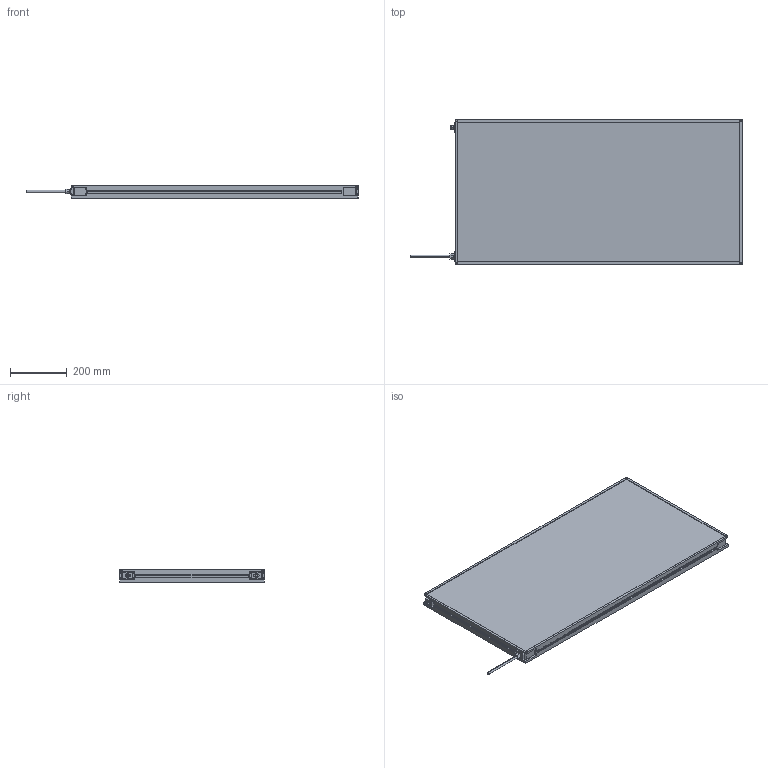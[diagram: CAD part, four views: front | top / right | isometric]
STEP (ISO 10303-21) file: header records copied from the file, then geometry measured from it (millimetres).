
FILE_DESCRIPTION (( 'STEP AP214' ), '1' );
FILE_NAME ('MBACK-xxxx-xxx-M1A2_CLIENT500x1000.STEP', '2022-04-01T11:39:58', ( '' ), ( '' ), 'SwSTEP 2.0', 'SolidWorks 2020', '' );
FILE_SCHEMA (( 'AUTOMOTIVE_DESIGN' ));
Length unit declared in the file: millimetre
Products named in the file (1): MBACK-xxxx-xxx-M1A2_CLIENT500x1000
Bounding box: 1167.4 x 508 x 45.5 mm (x, y, z)
Volume: 21316685 mm3; surface area: 1231419.1 mm2
Topology: 1 solids, 1 shells, 470 faces, 1210 edges, 804 vertices
Faces by surface type: plane 265, cylinder 117, bspline 80, cone 8
Entity records: 18046 total; most frequent: CARTESIAN_POINT 6837, ORIENTED_EDGE 2420, DIRECTION 2082, EDGE_CURVE 1210, VERTEX_POINT 804, LINE 800, VECTOR 800, AXIS2_PLACEMENT_3D 641
